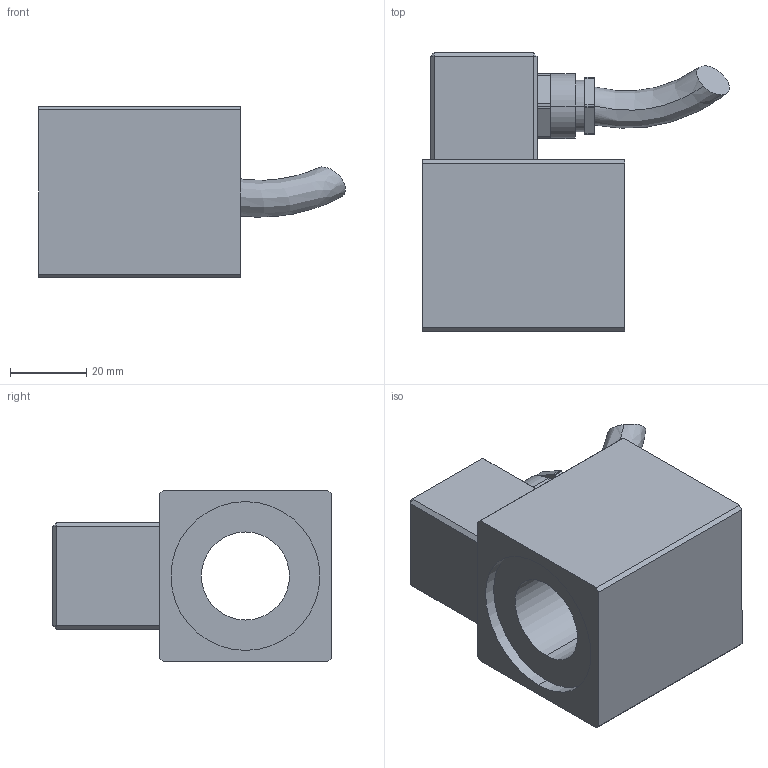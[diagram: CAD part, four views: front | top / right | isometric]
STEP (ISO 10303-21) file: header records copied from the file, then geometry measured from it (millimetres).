
FILE_DESCRIPTION (( 'STEP AP214' ), '1' );
FILE_NAME ('MKS45_23x50-DC.STEP', '2015-07-17T05:23:03', ( '' ), ( '' ), 'SwSTEP 2.0', 'SolidWorks 2014', '' );
FILE_SCHEMA (( 'AUTOMOTIVE_DESIGN' ));
Length unit declared in the file: millimetre
Products named in the file (2): MKS45_23x50-DC
Bounding box: 80.36 x 73 x 45 mm (x, y, z)
Volume: 109877.6 mm3; surface area: 22920.8 mm2
Topology: 1 solids, 5 shells, 183 faces, 446 edges, 280 vertices
Faces by surface type: plane 107, cylinder 50, cone 16, torus 8, bspline 2
Entity records: 7503 total; most frequent: CARTESIAN_POINT 1250, DIRECTION 927, ORIENTED_EDGE 880, EDGE_CURVE 440, AXIS2_PLACEMENT_3D 345, VERTEX_POINT 280, LINE 237, VECTOR 237
